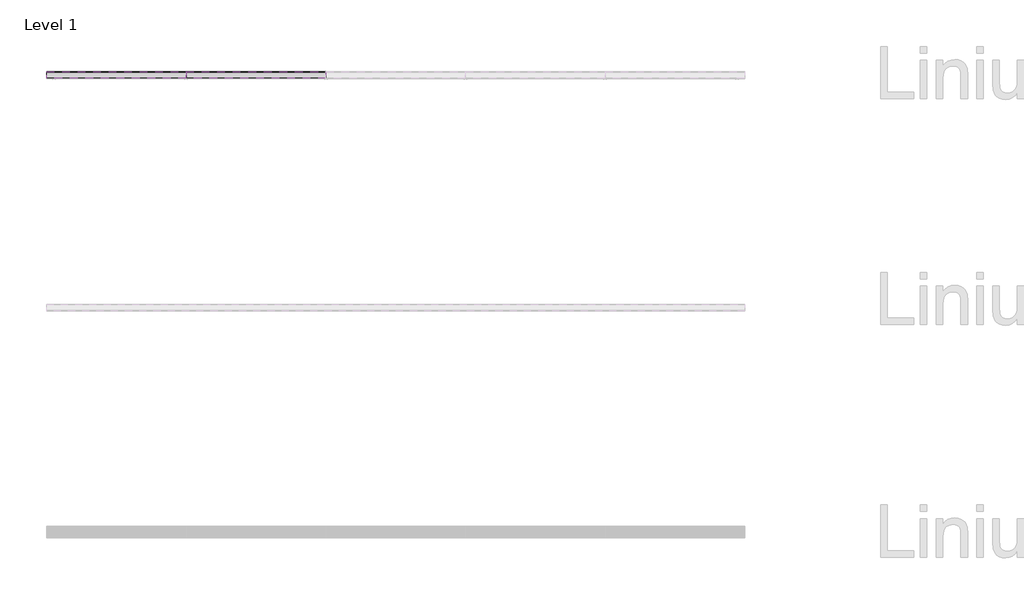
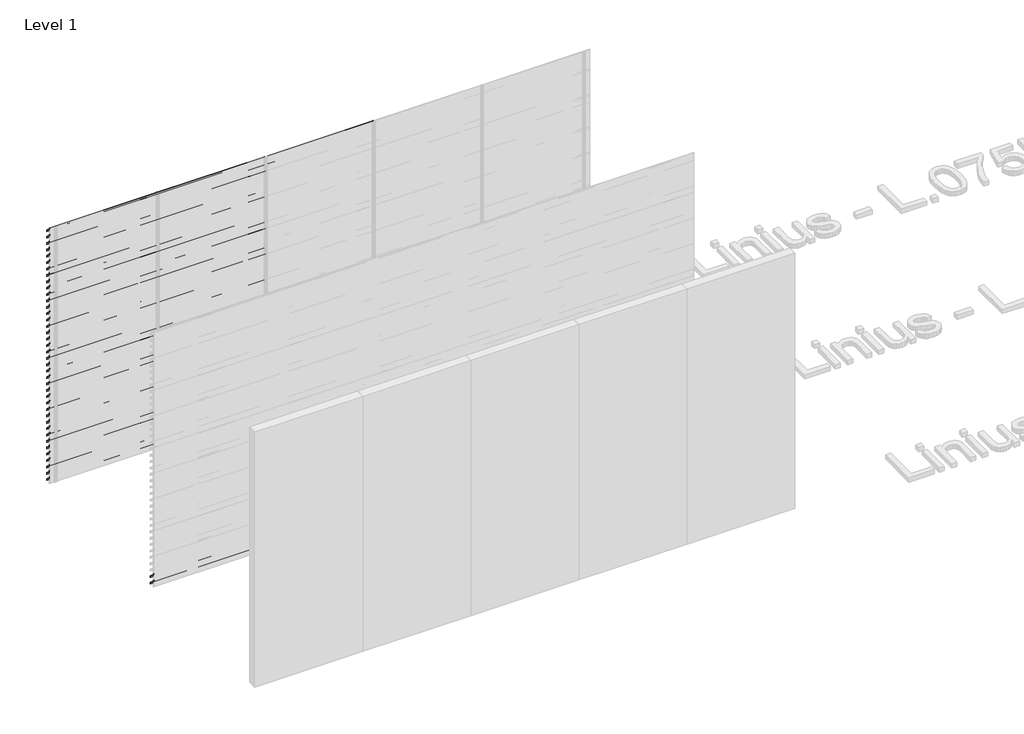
# One storey, part 52 of 55: 84 proxies.
"""IFC4 building model written with IfcOpenShell, lengths in millimetres."""

from ifc_helpers import new_model, si_unit, frame, origin, place, context, project, spatial, polyline, outline, extrude, element, save

model = new_model("IFC4")

# Units and contexts
model_context = context("Model", 3, world=origin())
ifc_project = project(units=[si_unit("LENGTHUNIT", "METRE", prefix="MILLI")], contexts=[model_context])

# Site, building, storey
site = spatial("IfcSite", under=ifc_project)
building = spatial("IfcBuilding", under=site)
storey = spatial("IfcBuildingStorey", under=building, Name="Level 1", Elevation=0.0)

# Proxies
placement = place(None, origin())
element("IfcBuildingElementProxy", 1, Name="Wall Sweeps", at=placement, inside=storey, context=model_context, shape_type="SweptSolid", body=[
    extrude(outline(polyline([(74035.8040136, 2943.5), (74035.8040136, 2923.5), (74034.5540136, 2924.2216933), (74034.5540136, 2942.7872415), (73980.8040136, 2980.3158044), (73980.8040136, 3000.0), (73982.0540136, 3000.0), (73982.0540136, 2981.0285629), (74035.8040136, 2943.5)])), frame((466.6208097, 0.0, 0.0), z_axis=(1.0, 0.0, 0.0), x_axis=(0.0, 1.0, 0.0)), (0.0, 0.0, 1.0), 1200.0000002),
])
element("IfcBuildingElementProxy", 2, Name="Wall Sweeps", at=placement, inside=storey, context=model_context, shape_type="SweptSolid", body=[
    extrude(outline(polyline([(74035.8040136, 2868.5), (74035.8040136, 2848.5), (74034.5540136, 2849.2216933), (74034.5540136, 2867.7872415), (73980.8040136, 2905.3158044), (73980.8040136, 2925.0), (73982.0540136, 2925.0), (73982.0540136, 2906.0285629), (74035.8040136, 2868.5)])), frame((466.6208097, 0.0, 0.0), z_axis=(1.0, 0.0, 0.0), x_axis=(0.0, 1.0, 0.0)), (0.0, 0.0, 1.0), 1200.0000002),
])
element("IfcBuildingElementProxy", 3, Name="Wall Sweeps", at=placement, inside=storey, context=model_context, shape_type="SweptSolid", body=[
    extrude(outline(polyline([(74035.8040136, 2793.5), (74035.8040136, 2773.5), (74034.5540136, 2774.2216933), (74034.5540136, 2792.7872415), (73980.8040136, 2830.3158044), (73980.8040136, 2850.0), (73982.0540136, 2850.0), (73982.0540136, 2831.0285629), (74035.8040136, 2793.5)])), frame((466.6208097, 0.0, 0.0), z_axis=(1.0, 0.0, 0.0), x_axis=(0.0, 1.0, 0.0)), (0.0, 0.0, 1.0), 1200.0000002),
])
element("IfcBuildingElementProxy", 4, Name="Wall Sweeps", at=placement, inside=storey, context=model_context, shape_type="SweptSolid", body=[
    extrude(outline(polyline([(74035.8040136, 2718.5), (74035.8040136, 2698.5), (74034.5540136, 2699.2216933), (74034.5540136, 2717.7872415), (73980.8040136, 2755.3158044), (73980.8040136, 2775.0), (73982.0540136, 2775.0), (73982.0540136, 2756.0285629), (74035.8040136, 2718.5)])), frame((466.6208097, 0.0, 0.0), z_axis=(1.0, 0.0, 0.0), x_axis=(0.0, 1.0, 0.0)), (0.0, 0.0, 1.0), 1200.0000002),
])
element("IfcBuildingElementProxy", 5, Name="Wall Sweeps", at=placement, inside=storey, context=model_context, shape_type="SweptSolid", body=[
    extrude(outline(polyline([(74035.8040136, 2643.5), (74035.8040136, 2623.5), (74034.5540136, 2624.2216933), (74034.5540136, 2642.7872415), (73980.8040136, 2680.3158044), (73980.8040136, 2700.0), (73982.0540136, 2700.0), (73982.0540136, 2681.0285629), (74035.8040136, 2643.5)])), frame((466.6208097, 0.0, 0.0), z_axis=(1.0, 0.0, 0.0), x_axis=(0.0, 1.0, 0.0)), (0.0, 0.0, 1.0), 1200.0000002),
])
element("IfcBuildingElementProxy", 6, Name="Wall Sweeps", at=placement, inside=storey, context=model_context, shape_type="SweptSolid", body=[
    extrude(outline(polyline([(74035.8040136, 2568.5), (74035.8040136, 2548.5), (74034.5540136, 2549.2216933), (74034.5540136, 2567.7872415), (73980.8040136, 2605.3158044), (73980.8040136, 2625.0), (73982.0540136, 2625.0), (73982.0540136, 2606.0285629), (74035.8040136, 2568.5)])), frame((466.6208097, 0.0, 0.0), z_axis=(1.0, 0.0, 0.0), x_axis=(0.0, 1.0, 0.0)), (0.0, 0.0, 1.0), 1200.0000002),
])
element("IfcBuildingElementProxy", 7, Name="Wall Sweeps", at=placement, inside=storey, context=model_context, shape_type="SweptSolid", body=[
    extrude(outline(polyline([(74035.8040136, 2493.5), (74035.8040136, 2473.5), (74034.5540136, 2474.2216933), (74034.5540136, 2492.7872415), (73980.8040136, 2530.3158044), (73980.8040136, 2550.0), (73982.0540136, 2550.0), (73982.0540136, 2531.0285629), (74035.8040136, 2493.5)])), frame((466.6208097, 0.0, 0.0), z_axis=(1.0, 0.0, 0.0), x_axis=(0.0, 1.0, 0.0)), (0.0, 0.0, 1.0), 1200.0000002),
])
element("IfcBuildingElementProxy", 8, Name="Wall Sweeps", at=placement, inside=storey, context=model_context, shape_type="SweptSolid", body=[
    extrude(outline(polyline([(74035.8040136, 2418.5), (74035.8040136, 2398.5), (74034.5540136, 2399.2216933), (74034.5540136, 2417.7872415), (73980.8040136, 2455.3158044), (73980.8040136, 2475.0), (73982.0540136, 2475.0), (73982.0540136, 2456.0285629), (74035.8040136, 2418.5)])), frame((466.6208097, 0.0, 0.0), z_axis=(1.0, 0.0, 0.0), x_axis=(0.0, 1.0, 0.0)), (0.0, 0.0, 1.0), 1200.0000002),
])
element("IfcBuildingElementProxy", 9, Name="Wall Sweeps", at=placement, inside=storey, context=model_context, shape_type="SweptSolid", body=[
    extrude(outline(polyline([(74035.8040136, 2343.5), (74035.8040136, 2323.5), (74034.5540136, 2324.2216933), (74034.5540136, 2342.7872415), (73980.8040136, 2380.3158044), (73980.8040136, 2400.0), (73982.0540136, 2400.0), (73982.0540136, 2381.0285629), (74035.8040136, 2343.5)])), frame((466.6208097, 0.0, 0.0), z_axis=(1.0, 0.0, 0.0), x_axis=(0.0, 1.0, 0.0)), (0.0, 0.0, 1.0), 1200.0000002),
])
element("IfcBuildingElementProxy", 10, Name="Wall Sweeps", at=placement, inside=storey, context=model_context, shape_type="SweptSolid", body=[
    extrude(outline(polyline([(74035.8040136, 2268.5), (74035.8040136, 2248.5), (74034.5540136, 2249.2216933), (74034.5540136, 2267.7872415), (73980.8040136, 2305.3158044), (73980.8040136, 2325.0), (73982.0540136, 2325.0), (73982.0540136, 2306.0285629), (74035.8040136, 2268.5)])), frame((466.6208097, 0.0, 0.0), z_axis=(1.0, 0.0, 0.0), x_axis=(0.0, 1.0, 0.0)), (0.0, 0.0, 1.0), 1200.0000002),
])
element("IfcBuildingElementProxy", 11, Name="Wall Sweeps", at=placement, inside=storey, context=model_context, shape_type="SweptSolid", body=[
    extrude(outline(polyline([(74035.8040136, 2193.5), (74035.8040136, 2173.5), (74034.5540136, 2174.2216933), (74034.5540136, 2192.7872415), (73980.8040136, 2230.3158044), (73980.8040136, 2250.0), (73982.0540136, 2250.0), (73982.0540136, 2231.0285629), (74035.8040136, 2193.5)])), frame((466.6208097, 0.0, 0.0), z_axis=(1.0, 0.0, 0.0), x_axis=(0.0, 1.0, 0.0)), (0.0, 0.0, 1.0), 1200.0000002),
])
element("IfcBuildingElementProxy", 12, Name="Wall Sweeps", at=placement, inside=storey, context=model_context, shape_type="SweptSolid", body=[
    extrude(outline(polyline([(74035.8040136, 2118.5), (74035.8040136, 2098.5), (74034.5540136, 2099.2216933), (74034.5540136, 2117.7872415), (73980.8040136, 2155.3158044), (73980.8040136, 2175.0), (73982.0540136, 2175.0), (73982.0540136, 2156.0285629), (74035.8040136, 2118.5)])), frame((466.6208097, 0.0, 0.0), z_axis=(1.0, 0.0, 0.0), x_axis=(0.0, 1.0, 0.0)), (0.0, 0.0, 1.0), 1200.0000002),
])
element("IfcBuildingElementProxy", 13, Name="Wall Sweeps", at=placement, inside=storey, context=model_context, shape_type="SweptSolid", body=[
    extrude(outline(polyline([(74035.8040136, 2043.5), (74035.8040136, 2023.5), (74034.5540136, 2024.2216933), (74034.5540136, 2042.7872415), (73980.8040136, 2080.3158044), (73980.8040136, 2100.0), (73982.0540136, 2100.0), (73982.0540136, 2081.0285629), (74035.8040136, 2043.5)])), frame((466.6208097, 0.0, 0.0), z_axis=(1.0, 0.0, 0.0), x_axis=(0.0, 1.0, 0.0)), (0.0, 0.0, 1.0), 1200.0000002),
])
element("IfcBuildingElementProxy", 14, Name="Wall Sweeps", at=placement, inside=storey, context=model_context, shape_type="SweptSolid", body=[
    extrude(outline(polyline([(74035.8040136, 1968.5), (74035.8040136, 1948.5), (74034.5540136, 1949.2216933), (74034.5540136, 1967.7872415), (73980.8040136, 2005.3158044), (73980.8040136, 2025.0), (73982.0540136, 2025.0), (73982.0540136, 2006.0285629), (74035.8040136, 1968.5)])), frame((466.6208097, 0.0, 0.0), z_axis=(1.0, 0.0, 0.0), x_axis=(0.0, 1.0, 0.0)), (0.0, 0.0, 1.0), 1200.0000002),
])
element("IfcBuildingElementProxy", 15, Name="Wall Sweeps", at=placement, inside=storey, context=model_context, shape_type="SweptSolid", body=[
    extrude(outline(polyline([(74035.8040136, 1893.5), (74035.8040136, 1873.5), (74034.5540136, 1874.2216933), (74034.5540136, 1892.7872415), (73980.8040136, 1930.3158044), (73980.8040136, 1950.0), (73982.0540136, 1950.0), (73982.0540136, 1931.0285629), (74035.8040136, 1893.5)])), frame((466.6208097, 0.0, 0.0), z_axis=(1.0, 0.0, 0.0), x_axis=(0.0, 1.0, 0.0)), (0.0, 0.0, 1.0), 1200.0000002),
])
element("IfcBuildingElementProxy", 16, Name="Wall Sweeps", at=placement, inside=storey, context=model_context, shape_type="SweptSolid", body=[
    extrude(outline(polyline([(74035.8040136, 1818.5), (74035.8040136, 1798.5), (74034.5540136, 1799.2216933), (74034.5540136, 1817.7872415), (73980.8040136, 1855.3158044), (73980.8040136, 1875.0), (73982.0540136, 1875.0), (73982.0540136, 1856.0285629), (74035.8040136, 1818.5)])), frame((466.6208097, 0.0, 0.0), z_axis=(1.0, 0.0, 0.0), x_axis=(0.0, 1.0, 0.0)), (0.0, 0.0, 1.0), 1200.0000002),
])
element("IfcBuildingElementProxy", 17, Name="Wall Sweeps", at=placement, inside=storey, context=model_context, shape_type="SweptSolid", body=[
    extrude(outline(polyline([(74035.8040136, 1743.5), (74035.8040136, 1723.5), (74034.5540136, 1724.2216933), (74034.5540136, 1742.7872415), (73980.8040136, 1780.3158044), (73980.8040136, 1800.0), (73982.0540136, 1800.0), (73982.0540136, 1781.0285629), (74035.8040136, 1743.5)])), frame((466.6208097, 0.0, 0.0), z_axis=(1.0, 0.0, 0.0), x_axis=(0.0, 1.0, 0.0)), (0.0, 0.0, 1.0), 1200.0000002),
])
element("IfcBuildingElementProxy", 18, Name="Wall Sweeps", at=placement, inside=storey, context=model_context, shape_type="SweptSolid", body=[
    extrude(outline(polyline([(74035.8040136, 1668.5), (74035.8040136, 1648.5), (74034.5540136, 1649.2216933), (74034.5540136, 1667.7872415), (73980.8040136, 1705.3158044), (73980.8040136, 1725.0), (73982.0540136, 1725.0), (73982.0540136, 1706.0285629), (74035.8040136, 1668.5)])), frame((466.6208097, 0.0, 0.0), z_axis=(1.0, 0.0, 0.0), x_axis=(0.0, 1.0, 0.0)), (0.0, 0.0, 1.0), 1200.0000002),
])
element("IfcBuildingElementProxy", 19, Name="Wall Sweeps", at=placement, inside=storey, context=model_context, shape_type="SweptSolid", body=[
    extrude(outline(polyline([(74035.8040136, 1593.5), (74035.8040136, 1573.5), (74034.5540136, 1574.2216933), (74034.5540136, 1592.7872415), (73980.8040136, 1630.3158044), (73980.8040136, 1650.0), (73982.0540136, 1650.0), (73982.0540136, 1631.0285629), (74035.8040136, 1593.5)])), frame((466.6208097, 0.0, 0.0), z_axis=(1.0, 0.0, 0.0), x_axis=(0.0, 1.0, 0.0)), (0.0, 0.0, 1.0), 1200.0000002),
])
element("IfcBuildingElementProxy", 20, Name="Wall Sweeps", at=placement, inside=storey, context=model_context, shape_type="SweptSolid", body=[
    extrude(outline(polyline([(74035.8040136, 1518.5), (74035.8040136, 1498.5), (74034.5540136, 1499.2216933), (74034.5540136, 1517.7872415), (73980.8040136, 1555.3158044), (73980.8040136, 1575.0), (73982.0540136, 1575.0), (73982.0540136, 1556.0285629), (74035.8040136, 1518.5)])), frame((466.6208097, 0.0, 0.0), z_axis=(1.0, 0.0, 0.0), x_axis=(0.0, 1.0, 0.0)), (0.0, 0.0, 1.0), 1200.0000002),
])
element("IfcBuildingElementProxy", 21, Name="Wall Sweeps", at=placement, inside=storey, context=model_context, shape_type="SweptSolid", body=[
    extrude(outline(polyline([(74035.8040136, 1443.5), (74035.8040136, 1423.5), (74034.5540136, 1424.2216933), (74034.5540136, 1442.7872415), (73980.8040136, 1480.3158044), (73980.8040136, 1500.0), (73982.0540136, 1500.0), (73982.0540136, 1481.0285629), (74035.8040136, 1443.5)])), frame((466.6208097, 0.0, 0.0), z_axis=(1.0, 0.0, 0.0), x_axis=(0.0, 1.0, 0.0)), (0.0, 0.0, 1.0), 1200.0000002),
])
element("IfcBuildingElementProxy", 22, Name="Wall Sweeps", at=placement, inside=storey, context=model_context, shape_type="SweptSolid", body=[
    extrude(outline(polyline([(74035.8040136, 1368.5), (74035.8040136, 1348.5), (74034.5540136, 1349.2216933), (74034.5540136, 1367.7872415), (73980.8040136, 1405.3158044), (73980.8040136, 1425.0), (73982.0540136, 1425.0), (73982.0540136, 1406.0285629), (74035.8040136, 1368.5)])), frame((466.6208097, 0.0, 0.0), z_axis=(1.0, 0.0, 0.0), x_axis=(0.0, 1.0, 0.0)), (0.0, 0.0, 1.0), 1200.0000002),
])
element("IfcBuildingElementProxy", 23, Name="Wall Sweeps", at=placement, inside=storey, context=model_context, shape_type="SweptSolid", body=[
    extrude(outline(polyline([(74035.8040136, 1293.5), (74035.8040136, 1273.5), (74034.5540136, 1274.2216933), (74034.5540136, 1292.7872415), (73980.8040136, 1330.3158044), (73980.8040136, 1350.0), (73982.0540136, 1350.0), (73982.0540136, 1331.0285629), (74035.8040136, 1293.5)])), frame((466.6208097, 0.0, 0.0), z_axis=(1.0, 0.0, 0.0), x_axis=(0.0, 1.0, 0.0)), (0.0, 0.0, 1.0), 1200.0000002),
])
element("IfcBuildingElementProxy", 24, Name="Wall Sweeps", at=placement, inside=storey, context=model_context, shape_type="SweptSolid", body=[
    extrude(outline(polyline([(74035.8040136, 1218.5), (74035.8040136, 1198.5), (74034.5540136, 1199.2216933), (74034.5540136, 1217.7872415), (73980.8040136, 1255.3158044), (73980.8040136, 1275.0), (73982.0540136, 1275.0), (73982.0540136, 1256.0285629), (74035.8040136, 1218.5)])), frame((466.6208097, 0.0, 0.0), z_axis=(1.0, 0.0, 0.0), x_axis=(0.0, 1.0, 0.0)), (0.0, 0.0, 1.0), 1200.0000002),
])
element("IfcBuildingElementProxy", 25, Name="Wall Sweeps", at=placement, inside=storey, context=model_context, shape_type="SweptSolid", body=[
    extrude(outline(polyline([(74035.8040136, 1143.5), (74035.8040136, 1123.5), (74034.5540136, 1124.2216933), (74034.5540136, 1142.7872415), (73980.8040136, 1180.3158044), (73980.8040136, 1200.0), (73982.0540136, 1200.0), (73982.0540136, 1181.0285629), (74035.8040136, 1143.5)])), frame((466.6208097, 0.0, 0.0), z_axis=(1.0, 0.0, 0.0), x_axis=(0.0, 1.0, 0.0)), (0.0, 0.0, 1.0), 1200.0000002),
])
element("IfcBuildingElementProxy", 26, Name="Wall Sweeps", at=placement, inside=storey, context=model_context, shape_type="SweptSolid", body=[
    extrude(outline(polyline([(74035.8040136, 1068.5), (74035.8040136, 1048.5), (74034.5540136, 1049.2216933), (74034.5540136, 1067.7872415), (73980.8040136, 1105.3158044), (73980.8040136, 1125.0), (73982.0540136, 1125.0), (73982.0540136, 1106.0285629), (74035.8040136, 1068.5)])), frame((466.6208097, 0.0, 0.0), z_axis=(1.0, 0.0, 0.0), x_axis=(0.0, 1.0, 0.0)), (0.0, 0.0, 1.0), 1200.0000002),
])
element("IfcBuildingElementProxy", 27, Name="Wall Sweeps", at=placement, inside=storey, context=model_context, shape_type="SweptSolid", body=[
    extrude(outline(polyline([(74035.8040136, 993.5), (74035.8040136, 973.5), (74034.5540136, 974.2216933), (74034.5540136, 992.7872415), (73980.8040136, 1030.3158044), (73980.8040136, 1050.0), (73982.0540136, 1050.0), (73982.0540136, 1031.0285629), (74035.8040136, 993.5)])), frame((466.6208097, 0.0, 0.0), z_axis=(1.0, 0.0, 0.0), x_axis=(0.0, 1.0, 0.0)), (0.0, 0.0, 1.0), 1200.0000002),
])
element("IfcBuildingElementProxy", 28, Name="Wall Sweeps", at=placement, inside=storey, context=model_context, shape_type="SweptSolid", body=[
    extrude(outline(polyline([(74035.8040136, 918.5), (74035.8040136, 898.5), (74034.5540136, 899.2216933), (74034.5540136, 917.7872415), (73980.8040136, 955.3158044), (73980.8040136, 975.0), (73982.0540136, 975.0), (73982.0540136, 956.0285629), (74035.8040136, 918.5)])), frame((466.6208097, 0.0, 0.0), z_axis=(1.0, 0.0, 0.0), x_axis=(0.0, 1.0, 0.0)), (0.0, 0.0, 1.0), 1200.0000002),
])
element("IfcBuildingElementProxy", 29, Name="Wall Sweeps", at=placement, inside=storey, context=model_context, shape_type="SweptSolid", body=[
    extrude(outline(polyline([(74035.8040136, 843.5), (74035.8040136, 823.5), (74034.5540136, 824.2216933), (74034.5540136, 842.7872415), (73980.8040136, 880.3158044), (73980.8040136, 900.0), (73982.0540136, 900.0), (73982.0540136, 881.0285629), (74035.8040136, 843.5)])), frame((466.6208097, 0.0, 0.0), z_axis=(1.0, 0.0, 0.0), x_axis=(0.0, 1.0, 0.0)), (0.0, 0.0, 1.0), 1200.0000002),
])
element("IfcBuildingElementProxy", 30, Name="Wall Sweeps", at=placement, inside=storey, context=model_context, shape_type="SweptSolid", body=[
    extrude(outline(polyline([(74035.8040136, 768.5), (74035.8040136, 748.5), (74034.5540136, 749.2216933), (74034.5540136, 767.7872415), (73980.8040136, 805.3158044), (73980.8040136, 825.0), (73982.0540136, 825.0), (73982.0540136, 806.0285629), (74035.8040136, 768.5)])), frame((466.6208097, 0.0, 0.0), z_axis=(1.0, 0.0, 0.0), x_axis=(0.0, 1.0, 0.0)), (0.0, 0.0, 1.0), 1200.0000002),
])
element("IfcBuildingElementProxy", 31, Name="Wall Sweeps", at=placement, inside=storey, context=model_context, shape_type="SweptSolid", body=[
    extrude(outline(polyline([(74035.8040136, 693.5), (74035.8040136, 673.5), (74034.5540136, 674.2216933), (74034.5540136, 692.7872415), (73980.8040136, 730.3158044), (73980.8040136, 750.0), (73982.0540136, 750.0), (73982.0540136, 731.0285629), (74035.8040136, 693.5)])), frame((466.6208097, 0.0, 0.0), z_axis=(1.0, 0.0, 0.0), x_axis=(0.0, 1.0, 0.0)), (0.0, 0.0, 1.0), 1200.0000002),
])
element("IfcBuildingElementProxy", 32, Name="Wall Sweeps", at=placement, inside=storey, context=model_context, shape_type="SweptSolid", body=[
    extrude(outline(polyline([(74035.8040136, 618.5), (74035.8040136, 598.5), (74034.5540136, 599.2216933), (74034.5540136, 617.7872415), (73980.8040136, 655.3158044), (73980.8040136, 675.0), (73982.0540136, 675.0), (73982.0540136, 656.0285629), (74035.8040136, 618.5)])), frame((466.6208097, 0.0, 0.0), z_axis=(1.0, 0.0, 0.0), x_axis=(0.0, 1.0, 0.0)), (0.0, 0.0, 1.0), 1200.0000002),
])
element("IfcBuildingElementProxy", 33, Name="Wall Sweeps", at=placement, inside=storey, context=model_context, shape_type="SweptSolid", body=[
    extrude(outline(polyline([(74035.8040136, 543.5), (74035.8040136, 523.5), (74034.5540136, 524.2216933), (74034.5540136, 542.7872415), (73980.8040136, 580.3158044), (73980.8040136, 600.0), (73982.0540136, 600.0), (73982.0540136, 581.0285629), (74035.8040136, 543.5)])), frame((466.6208097, 0.0, 0.0), z_axis=(1.0, 0.0, 0.0), x_axis=(0.0, 1.0, 0.0)), (0.0, 0.0, 1.0), 1200.0000002),
])
element("IfcBuildingElementProxy", 34, Name="Wall Sweeps", at=placement, inside=storey, context=model_context, shape_type="SweptSolid", body=[
    extrude(outline(polyline([(74035.8040136, 468.5), (74035.8040136, 448.5), (74034.5540136, 449.2216933), (74034.5540136, 467.7872415), (73980.8040136, 505.3158044), (73980.8040136, 525.0), (73982.0540136, 525.0), (73982.0540136, 506.0285629), (74035.8040136, 468.5)])), frame((466.6208097, 0.0, 0.0), z_axis=(1.0, 0.0, 0.0), x_axis=(0.0, 1.0, 0.0)), (0.0, 0.0, 1.0), 1200.0000002),
])
element("IfcBuildingElementProxy", 35, Name="Wall Sweeps", at=placement, inside=storey, context=model_context, shape_type="SweptSolid", body=[
    extrude(outline(polyline([(74035.8040136, 393.5), (74035.8040136, 373.5), (74034.5540136, 374.2216933), (74034.5540136, 392.7872415), (73980.8040136, 430.3158044), (73980.8040136, 450.0), (73982.0540136, 450.0), (73982.0540136, 431.0285629), (74035.8040136, 393.5)])), frame((466.6208097, 0.0, 0.0), z_axis=(1.0, 0.0, 0.0), x_axis=(0.0, 1.0, 0.0)), (0.0, 0.0, 1.0), 1200.0000002),
])
element("IfcBuildingElementProxy", 36, Name="Wall Sweeps", at=placement, inside=storey, context=model_context, shape_type="SweptSolid", body=[
    extrude(outline(polyline([(74035.8040136, 318.5), (74035.8040136, 298.5), (74034.5540136, 299.2216933), (74034.5540136, 317.7872415), (73980.8040136, 355.3158044), (73980.8040136, 375.0), (73982.0540136, 375.0), (73982.0540136, 356.0285629), (74035.8040136, 318.5)])), frame((466.6208097, 0.0, 0.0), z_axis=(1.0, 0.0, 0.0), x_axis=(0.0, 1.0, 0.0)), (0.0, 0.0, 1.0), 1200.0000002),
])
element("IfcBuildingElementProxy", 37, Name="Wall Sweeps", at=placement, inside=storey, context=model_context, shape_type="SweptSolid", body=[
    extrude(outline(polyline([(74035.8040136, 243.5), (74035.8040136, 223.5), (74034.5540136, 224.2216933), (74034.5540136, 242.7872415), (73980.8040136, 280.3158044), (73980.8040136, 300.0), (73982.0540136, 300.0), (73982.0540136, 281.0285629), (74035.8040136, 243.5)])), frame((466.6208097, 0.0, 0.0), z_axis=(1.0, 0.0, 0.0), x_axis=(0.0, 1.0, 0.0)), (0.0, 0.0, 1.0), 1200.0000002),
])
element("IfcBuildingElementProxy", 38, Name="Wall Sweeps", at=placement, inside=storey, context=model_context, shape_type="SweptSolid", body=[
    extrude(outline(polyline([(74035.8040136, 168.5), (74035.8040136, 148.5), (74034.5540136, 149.2216933), (74034.5540136, 167.7872415), (73980.8040136, 205.3158044), (73980.8040136, 225.0), (73982.0540136, 225.0), (73982.0540136, 206.0285629), (74035.8040136, 168.5)])), frame((466.6208097, 0.0, 0.0), z_axis=(1.0, 0.0, 0.0), x_axis=(0.0, 1.0, 0.0)), (0.0, 0.0, 1.0), 1200.0000002),
])
element("IfcBuildingElementProxy", 39, Name="Wall Sweeps", at=placement, inside=storey, context=model_context, shape_type="SweptSolid", body=[
    extrude(outline(polyline([(74035.8040136, 93.5), (74035.8040136, 73.5), (74034.5540136, 74.2216933), (74034.5540136, 92.7872415), (73980.8040136, 130.3158044), (73980.8040136, 150.0), (73982.0540136, 150.0), (73982.0540136, 131.0285629), (74035.8040136, 93.5)])), frame((466.6208097, 0.0, 0.0), z_axis=(1.0, 0.0, 0.0), x_axis=(0.0, 1.0, 0.0)), (0.0, 0.0, 1.0), 1200.0000002),
])
element("IfcBuildingElementProxy", 40, Name="Wall Sweeps", at=placement, inside=storey, context=model_context, shape_type="SweptSolid", body=[
    extrude(outline(polyline([(74035.8040136, 18.5), (74035.8040136, -1.5), (74034.5540136, -0.7783067), (74034.5540136, 17.7872415), (73980.8040136, 55.3158044), (73980.8040136, 75.0), (73982.0540136, 75.0), (73982.0540136, 56.0285629), (74035.8040136, 18.5)])), frame((466.6208097, 0.0, 0.0), z_axis=(1.0, 0.0, 0.0), x_axis=(0.0, 1.0, 0.0)), (0.0, 0.0, 1.0), 1200.0000002),
])
element("IfcBuildingElementProxy", 41, Name="Wall Sweeps", at=placement, inside=storey, context=model_context, shape_type="SweptSolid", body=[
    extrude(outline(polyline([(74035.8040136, 2943.5), (74035.8040136, 2923.5), (74034.5540136, 2924.2216933), (74034.5540136, 2942.7872415), (73980.8040136, 2980.3158044), (73980.8040136, 3000.0), (73982.0540136, 3000.0), (73982.0540136, 2981.0285629), (74035.8040136, 2943.5)])), frame((1666.6208099, 0.0, 0.0), z_axis=(1.0, 0.0, 0.0), x_axis=(0.0, 1.0, 0.0)), (0.0, 0.0, 1.0), 1199.9999999),
])
element("IfcBuildingElementProxy", 42, Name="Wall Sweeps", at=placement, inside=storey, context=model_context, shape_type="SweptSolid", body=[
    extrude(outline(polyline([(74035.8040136, 2868.5), (74035.8040136, 2848.5), (74034.5540136, 2849.2216933), (74034.5540136, 2867.7872415), (73980.8040136, 2905.3158044), (73980.8040136, 2925.0), (73982.0540136, 2925.0), (73982.0540136, 2906.0285629), (74035.8040136, 2868.5)])), frame((1666.6208099, 0.0, 0.0), z_axis=(1.0, 0.0, 0.0), x_axis=(0.0, 1.0, 0.0)), (0.0, 0.0, 1.0), 1199.9999999),
])
element("IfcBuildingElementProxy", 43, Name="Wall Sweeps", at=placement, inside=storey, context=model_context, shape_type="SweptSolid", body=[
    extrude(outline(polyline([(74035.8040136, 2793.5), (74035.8040136, 2773.5), (74034.5540136, 2774.2216933), (74034.5540136, 2792.7872415), (73980.8040136, 2830.3158044), (73980.8040136, 2850.0), (73982.0540136, 2850.0), (73982.0540136, 2831.0285629), (74035.8040136, 2793.5)])), frame((1666.6208099, 0.0, 0.0), z_axis=(1.0, 0.0, 0.0), x_axis=(0.0, 1.0, 0.0)), (0.0, 0.0, 1.0), 1199.9999999),
])
element("IfcBuildingElementProxy", 44, Name="Wall Sweeps", at=placement, inside=storey, context=model_context, shape_type="SweptSolid", body=[
    extrude(outline(polyline([(74035.8040136, 2718.5), (74035.8040136, 2698.5), (74034.5540136, 2699.2216933), (74034.5540136, 2717.7872415), (73980.8040136, 2755.3158044), (73980.8040136, 2775.0), (73982.0540136, 2775.0), (73982.0540136, 2756.0285629), (74035.8040136, 2718.5)])), frame((1666.6208099, 0.0, 0.0), z_axis=(1.0, 0.0, 0.0), x_axis=(0.0, 1.0, 0.0)), (0.0, 0.0, 1.0), 1199.9999999),
])
element("IfcBuildingElementProxy", 45, Name="Wall Sweeps", at=placement, inside=storey, context=model_context, shape_type="SweptSolid", body=[
    extrude(outline(polyline([(74035.8040136, 2643.5), (74035.8040136, 2623.5), (74034.5540136, 2624.2216933), (74034.5540136, 2642.7872415), (73980.8040136, 2680.3158044), (73980.8040136, 2700.0), (73982.0540136, 2700.0), (73982.0540136, 2681.0285629), (74035.8040136, 2643.5)])), frame((1666.6208099, 0.0, 0.0), z_axis=(1.0, 0.0, 0.0), x_axis=(0.0, 1.0, 0.0)), (0.0, 0.0, 1.0), 1199.9999999),
])
element("IfcBuildingElementProxy", 46, Name="Wall Sweeps", at=placement, inside=storey, context=model_context, shape_type="SweptSolid", body=[
    extrude(outline(polyline([(74035.8040136, 2568.5), (74035.8040136, 2548.5), (74034.5540136, 2549.2216933), (74034.5540136, 2567.7872415), (73980.8040136, 2605.3158044), (73980.8040136, 2625.0), (73982.0540136, 2625.0), (73982.0540136, 2606.0285629), (74035.8040136, 2568.5)])), frame((1666.6208099, 0.0, 0.0), z_axis=(1.0, 0.0, 0.0), x_axis=(0.0, 1.0, 0.0)), (0.0, 0.0, 1.0), 1199.9999999),
])
element("IfcBuildingElementProxy", 47, Name="Wall Sweeps", at=placement, inside=storey, context=model_context, shape_type="SweptSolid", body=[
    extrude(outline(polyline([(74035.8040136, 2493.5), (74035.8040136, 2473.5), (74034.5540136, 2474.2216933), (74034.5540136, 2492.7872415), (73980.8040136, 2530.3158044), (73980.8040136, 2550.0), (73982.0540136, 2550.0), (73982.0540136, 2531.0285629), (74035.8040136, 2493.5)])), frame((1666.6208099, 0.0, 0.0), z_axis=(1.0, 0.0, 0.0), x_axis=(0.0, 1.0, 0.0)), (0.0, 0.0, 1.0), 1199.9999999),
])
element("IfcBuildingElementProxy", 48, Name="Wall Sweeps", at=placement, inside=storey, context=model_context, shape_type="SweptSolid", body=[
    extrude(outline(polyline([(74035.8040136, 2418.5), (74035.8040136, 2398.5), (74034.5540136, 2399.2216933), (74034.5540136, 2417.7872415), (73980.8040136, 2455.3158044), (73980.8040136, 2475.0), (73982.0540136, 2475.0), (73982.0540136, 2456.0285629), (74035.8040136, 2418.5)])), frame((1666.6208099, 0.0, 0.0), z_axis=(1.0, 0.0, 0.0), x_axis=(0.0, 1.0, 0.0)), (0.0, 0.0, 1.0), 1199.9999999),
])
element("IfcBuildingElementProxy", 49, Name="Wall Sweeps", at=placement, inside=storey, context=model_context, shape_type="SweptSolid", body=[
    extrude(outline(polyline([(74035.8040136, 2343.5), (74035.8040136, 2323.5), (74034.5540136, 2324.2216933), (74034.5540136, 2342.7872415), (73980.8040136, 2380.3158044), (73980.8040136, 2400.0), (73982.0540136, 2400.0), (73982.0540136, 2381.0285629), (74035.8040136, 2343.5)])), frame((1666.6208099, 0.0, 0.0), z_axis=(1.0, 0.0, 0.0), x_axis=(0.0, 1.0, 0.0)), (0.0, 0.0, 1.0), 1199.9999999),
])
element("IfcBuildingElementProxy", 50, Name="Wall Sweeps", at=placement, inside=storey, context=model_context, shape_type="SweptSolid", body=[
    extrude(outline(polyline([(74035.8040136, 2268.5), (74035.8040136, 2248.5), (74034.5540136, 2249.2216933), (74034.5540136, 2267.7872415), (73980.8040136, 2305.3158044), (73980.8040136, 2325.0), (73982.0540136, 2325.0), (73982.0540136, 2306.0285629), (74035.8040136, 2268.5)])), frame((1666.6208099, 0.0, 0.0), z_axis=(1.0, 0.0, 0.0), x_axis=(0.0, 1.0, 0.0)), (0.0, 0.0, 1.0), 1199.9999999),
])
element("IfcBuildingElementProxy", 51, Name="Wall Sweeps", at=placement, inside=storey, context=model_context, shape_type="SweptSolid", body=[
    extrude(outline(polyline([(74035.8040136, 2193.5), (74035.8040136, 2173.5), (74034.5540136, 2174.2216933), (74034.5540136, 2192.7872415), (73980.8040136, 2230.3158044), (73980.8040136, 2250.0), (73982.0540136, 2250.0), (73982.0540136, 2231.0285629), (74035.8040136, 2193.5)])), frame((1666.6208099, 0.0, 0.0), z_axis=(1.0, 0.0, 0.0), x_axis=(0.0, 1.0, 0.0)), (0.0, 0.0, 1.0), 1199.9999999),
])
element("IfcBuildingElementProxy", 52, Name="Wall Sweeps", at=placement, inside=storey, context=model_context, shape_type="SweptSolid", body=[
    extrude(outline(polyline([(74035.8040136, 2118.5), (74035.8040136, 2098.5), (74034.5540136, 2099.2216933), (74034.5540136, 2117.7872415), (73980.8040136, 2155.3158044), (73980.8040136, 2175.0), (73982.0540136, 2175.0), (73982.0540136, 2156.0285629), (74035.8040136, 2118.5)])), frame((1666.6208099, 0.0, 0.0), z_axis=(1.0, 0.0, 0.0), x_axis=(0.0, 1.0, 0.0)), (0.0, 0.0, 1.0), 1199.9999999),
])
element("IfcBuildingElementProxy", 53, Name="Wall Sweeps", at=placement, inside=storey, context=model_context, shape_type="SweptSolid", body=[
    extrude(outline(polyline([(74035.8040136, 2043.5), (74035.8040136, 2023.5), (74034.5540136, 2024.2216933), (74034.5540136, 2042.7872415), (73980.8040136, 2080.3158044), (73980.8040136, 2100.0), (73982.0540136, 2100.0), (73982.0540136, 2081.0285629), (74035.8040136, 2043.5)])), frame((1666.6208099, 0.0, 0.0), z_axis=(1.0, 0.0, 0.0), x_axis=(0.0, 1.0, 0.0)), (0.0, 0.0, 1.0), 1199.9999999),
])
element("IfcBuildingElementProxy", 54, Name="Wall Sweeps", at=placement, inside=storey, context=model_context, shape_type="SweptSolid", body=[
    extrude(outline(polyline([(74035.8040136, 1968.5), (74035.8040136, 1948.5), (74034.5540136, 1949.2216933), (74034.5540136, 1967.7872415), (73980.8040136, 2005.3158044), (73980.8040136, 2025.0), (73982.0540136, 2025.0), (73982.0540136, 2006.0285629), (74035.8040136, 1968.5)])), frame((1666.6208099, 0.0, 0.0), z_axis=(1.0, 0.0, 0.0), x_axis=(0.0, 1.0, 0.0)), (0.0, 0.0, 1.0), 1199.9999999),
])
element("IfcBuildingElementProxy", 55, Name="Wall Sweeps", at=placement, inside=storey, context=model_context, shape_type="SweptSolid", body=[
    extrude(outline(polyline([(74035.8040136, 1893.5), (74035.8040136, 1873.5), (74034.5540136, 1874.2216933), (74034.5540136, 1892.7872415), (73980.8040136, 1930.3158044), (73980.8040136, 1950.0), (73982.0540136, 1950.0), (73982.0540136, 1931.0285629), (74035.8040136, 1893.5)])), frame((1666.6208099, 0.0, 0.0), z_axis=(1.0, 0.0, 0.0), x_axis=(0.0, 1.0, 0.0)), (0.0, 0.0, 1.0), 1199.9999999),
])
element("IfcBuildingElementProxy", 56, Name="Wall Sweeps", at=placement, inside=storey, context=model_context, shape_type="SweptSolid", body=[
    extrude(outline(polyline([(74035.8040136, 1818.5), (74035.8040136, 1798.5), (74034.5540136, 1799.2216933), (74034.5540136, 1817.7872415), (73980.8040136, 1855.3158044), (73980.8040136, 1875.0), (73982.0540136, 1875.0), (73982.0540136, 1856.0285629), (74035.8040136, 1818.5)])), frame((1666.6208099, 0.0, 0.0), z_axis=(1.0, 0.0, 0.0), x_axis=(0.0, 1.0, 0.0)), (0.0, 0.0, 1.0), 1199.9999999),
])
element("IfcBuildingElementProxy", 57, Name="Wall Sweeps", at=placement, inside=storey, context=model_context, shape_type="SweptSolid", body=[
    extrude(outline(polyline([(74035.8040136, 1743.5), (74035.8040136, 1723.5), (74034.5540136, 1724.2216933), (74034.5540136, 1742.7872415), (73980.8040136, 1780.3158044), (73980.8040136, 1800.0), (73982.0540136, 1800.0), (73982.0540136, 1781.0285629), (74035.8040136, 1743.5)])), frame((1666.6208099, 0.0, 0.0), z_axis=(1.0, 0.0, 0.0), x_axis=(0.0, 1.0, 0.0)), (0.0, 0.0, 1.0), 1199.9999999),
])
element("IfcBuildingElementProxy", 58, Name="Wall Sweeps", at=placement, inside=storey, context=model_context, shape_type="SweptSolid", body=[
    extrude(outline(polyline([(74035.8040136, 1668.5), (74035.8040136, 1648.5), (74034.5540136, 1649.2216933), (74034.5540136, 1667.7872415), (73980.8040136, 1705.3158044), (73980.8040136, 1725.0), (73982.0540136, 1725.0), (73982.0540136, 1706.0285629), (74035.8040136, 1668.5)])), frame((1666.6208099, 0.0, 0.0), z_axis=(1.0, 0.0, 0.0), x_axis=(0.0, 1.0, 0.0)), (0.0, 0.0, 1.0), 1199.9999999),
])
element("IfcBuildingElementProxy", 59, Name="Wall Sweeps", at=placement, inside=storey, context=model_context, shape_type="SweptSolid", body=[
    extrude(outline(polyline([(74035.8040136, 1593.5), (74035.8040136, 1573.5), (74034.5540136, 1574.2216933), (74034.5540136, 1592.7872415), (73980.8040136, 1630.3158044), (73980.8040136, 1650.0), (73982.0540136, 1650.0), (73982.0540136, 1631.0285629), (74035.8040136, 1593.5)])), frame((1666.6208099, 0.0, 0.0), z_axis=(1.0, 0.0, 0.0), x_axis=(0.0, 1.0, 0.0)), (0.0, 0.0, 1.0), 1199.9999999),
])
element("IfcBuildingElementProxy", 60, Name="Wall Sweeps", at=placement, inside=storey, context=model_context, shape_type="SweptSolid", body=[
    extrude(outline(polyline([(74035.8040136, 1518.5), (74035.8040136, 1498.5), (74034.5540136, 1499.2216933), (74034.5540136, 1517.7872415), (73980.8040136, 1555.3158044), (73980.8040136, 1575.0), (73982.0540136, 1575.0), (73982.0540136, 1556.0285629), (74035.8040136, 1518.5)])), frame((1666.6208099, 0.0, 0.0), z_axis=(1.0, 0.0, 0.0), x_axis=(0.0, 1.0, 0.0)), (0.0, 0.0, 1.0), 1199.9999999),
])
element("IfcBuildingElementProxy", 61, Name="Wall Sweeps", at=placement, inside=storey, context=model_context, shape_type="SweptSolid", body=[
    extrude(outline(polyline([(74035.8040136, 1443.5), (74035.8040136, 1423.5), (74034.5540136, 1424.2216933), (74034.5540136, 1442.7872415), (73980.8040136, 1480.3158044), (73980.8040136, 1500.0), (73982.0540136, 1500.0), (73982.0540136, 1481.0285629), (74035.8040136, 1443.5)])), frame((1666.6208099, 0.0, 0.0), z_axis=(1.0, 0.0, 0.0), x_axis=(0.0, 1.0, 0.0)), (0.0, 0.0, 1.0), 1199.9999999),
])
element("IfcBuildingElementProxy", 62, Name="Wall Sweeps", at=placement, inside=storey, context=model_context, shape_type="SweptSolid", body=[
    extrude(outline(polyline([(74035.8040136, 1368.5), (74035.8040136, 1348.5), (74034.5540136, 1349.2216933), (74034.5540136, 1367.7872415), (73980.8040136, 1405.3158044), (73980.8040136, 1425.0), (73982.0540136, 1425.0), (73982.0540136, 1406.0285629), (74035.8040136, 1368.5)])), frame((1666.6208099, 0.0, 0.0), z_axis=(1.0, 0.0, 0.0), x_axis=(0.0, 1.0, 0.0)), (0.0, 0.0, 1.0), 1199.9999999),
])
element("IfcBuildingElementProxy", 63, Name="Wall Sweeps", at=placement, inside=storey, context=model_context, shape_type="SweptSolid", body=[
    extrude(outline(polyline([(74035.8040136, 1293.5), (74035.8040136, 1273.5), (74034.5540136, 1274.2216933), (74034.5540136, 1292.7872415), (73980.8040136, 1330.3158044), (73980.8040136, 1350.0), (73982.0540136, 1350.0), (73982.0540136, 1331.0285629), (74035.8040136, 1293.5)])), frame((1666.6208099, 0.0, 0.0), z_axis=(1.0, 0.0, 0.0), x_axis=(0.0, 1.0, 0.0)), (0.0, 0.0, 1.0), 1199.9999999),
])
element("IfcBuildingElementProxy", 64, Name="Wall Sweeps", at=placement, inside=storey, context=model_context, shape_type="SweptSolid", body=[
    extrude(outline(polyline([(74035.8040136, 1218.5), (74035.8040136, 1198.5), (74034.5540136, 1199.2216933), (74034.5540136, 1217.7872415), (73980.8040136, 1255.3158044), (73980.8040136, 1275.0), (73982.0540136, 1275.0), (73982.0540136, 1256.0285629), (74035.8040136, 1218.5)])), frame((1666.6208099, 0.0, 0.0), z_axis=(1.0, 0.0, 0.0), x_axis=(0.0, 1.0, 0.0)), (0.0, 0.0, 1.0), 1199.9999999),
])
element("IfcBuildingElementProxy", 65, Name="Wall Sweeps", at=placement, inside=storey, context=model_context, shape_type="SweptSolid", body=[
    extrude(outline(polyline([(74035.8040136, 1143.5), (74035.8040136, 1123.5), (74034.5540136, 1124.2216933), (74034.5540136, 1142.7872415), (73980.8040136, 1180.3158044), (73980.8040136, 1200.0), (73982.0540136, 1200.0), (73982.0540136, 1181.0285629), (74035.8040136, 1143.5)])), frame((1666.6208099, 0.0, 0.0), z_axis=(1.0, 0.0, 0.0), x_axis=(0.0, 1.0, 0.0)), (0.0, 0.0, 1.0), 1199.9999999),
])
element("IfcBuildingElementProxy", 66, Name="Wall Sweeps", at=placement, inside=storey, context=model_context, shape_type="SweptSolid", body=[
    extrude(outline(polyline([(74035.8040136, 1068.5), (74035.8040136, 1048.5), (74034.5540136, 1049.2216933), (74034.5540136, 1067.7872415), (73980.8040136, 1105.3158044), (73980.8040136, 1125.0), (73982.0540136, 1125.0), (73982.0540136, 1106.0285629), (74035.8040136, 1068.5)])), frame((1666.6208099, 0.0, 0.0), z_axis=(1.0, 0.0, 0.0), x_axis=(0.0, 1.0, 0.0)), (0.0, 0.0, 1.0), 1199.9999999),
])
element("IfcBuildingElementProxy", 67, Name="Wall Sweeps", at=placement, inside=storey, context=model_context, shape_type="SweptSolid", body=[
    extrude(outline(polyline([(74035.8040136, 993.5), (74035.8040136, 973.5), (74034.5540136, 974.2216933), (74034.5540136, 992.7872415), (73980.8040136, 1030.3158044), (73980.8040136, 1050.0), (73982.0540136, 1050.0), (73982.0540136, 1031.0285629), (74035.8040136, 993.5)])), frame((1666.6208099, 0.0, 0.0), z_axis=(1.0, 0.0, 0.0), x_axis=(0.0, 1.0, 0.0)), (0.0, 0.0, 1.0), 1199.9999999),
])
element("IfcBuildingElementProxy", 68, Name="Wall Sweeps", at=placement, inside=storey, context=model_context, shape_type="SweptSolid", body=[
    extrude(outline(polyline([(74035.8040136, 918.5), (74035.8040136, 898.5), (74034.5540136, 899.2216933), (74034.5540136, 917.7872415), (73980.8040136, 955.3158044), (73980.8040136, 975.0), (73982.0540136, 975.0), (73982.0540136, 956.0285629), (74035.8040136, 918.5)])), frame((1666.6208099, 0.0, 0.0), z_axis=(1.0, 0.0, 0.0), x_axis=(0.0, 1.0, 0.0)), (0.0, 0.0, 1.0), 1199.9999999),
])
element("IfcBuildingElementProxy", 69, Name="Wall Sweeps", at=placement, inside=storey, context=model_context, shape_type="SweptSolid", body=[
    extrude(outline(polyline([(74035.8040136, 843.5), (74035.8040136, 823.5), (74034.5540136, 824.2216933), (74034.5540136, 842.7872415), (73980.8040136, 880.3158044), (73980.8040136, 900.0), (73982.0540136, 900.0), (73982.0540136, 881.0285629), (74035.8040136, 843.5)])), frame((1666.6208099, 0.0, 0.0), z_axis=(1.0, 0.0, 0.0), x_axis=(0.0, 1.0, 0.0)), (0.0, 0.0, 1.0), 1199.9999999),
])
element("IfcBuildingElementProxy", 70, Name="Wall Sweeps", at=placement, inside=storey, context=model_context, shape_type="SweptSolid", body=[
    extrude(outline(polyline([(74035.8040136, 768.5), (74035.8040136, 748.5), (74034.5540136, 749.2216933), (74034.5540136, 767.7872415), (73980.8040136, 805.3158044), (73980.8040136, 825.0), (73982.0540136, 825.0), (73982.0540136, 806.0285629), (74035.8040136, 768.5)])), frame((1666.6208099, 0.0, 0.0), z_axis=(1.0, 0.0, 0.0), x_axis=(0.0, 1.0, 0.0)), (0.0, 0.0, 1.0), 1199.9999999),
])
element("IfcBuildingElementProxy", 71, Name="Wall Sweeps", at=placement, inside=storey, context=model_context, shape_type="SweptSolid", body=[
    extrude(outline(polyline([(74035.8040136, 693.5), (74035.8040136, 673.5), (74034.5540136, 674.2216933), (74034.5540136, 692.7872415), (73980.8040136, 730.3158044), (73980.8040136, 750.0), (73982.0540136, 750.0), (73982.0540136, 731.0285629), (74035.8040136, 693.5)])), frame((1666.6208099, 0.0, 0.0), z_axis=(1.0, 0.0, 0.0), x_axis=(0.0, 1.0, 0.0)), (0.0, 0.0, 1.0), 1199.9999999),
])
element("IfcBuildingElementProxy", 72, Name="Wall Sweeps", at=placement, inside=storey, context=model_context, shape_type="SweptSolid", body=[
    extrude(outline(polyline([(74035.8040136, 618.5), (74035.8040136, 598.5), (74034.5540136, 599.2216933), (74034.5540136, 617.7872415), (73980.8040136, 655.3158044), (73980.8040136, 675.0), (73982.0540136, 675.0), (73982.0540136, 656.0285629), (74035.8040136, 618.5)])), frame((1666.6208099, 0.0, 0.0), z_axis=(1.0, 0.0, 0.0), x_axis=(0.0, 1.0, 0.0)), (0.0, 0.0, 1.0), 1199.9999999),
])
element("IfcBuildingElementProxy", 73, Name="Wall Sweeps", at=placement, inside=storey, context=model_context, shape_type="SweptSolid", body=[
    extrude(outline(polyline([(74035.8040136, 543.5), (74035.8040136, 523.5), (74034.5540136, 524.2216933), (74034.5540136, 542.7872415), (73980.8040136, 580.3158044), (73980.8040136, 600.0), (73982.0540136, 600.0), (73982.0540136, 581.0285629), (74035.8040136, 543.5)])), frame((1666.6208099, 0.0, 0.0), z_axis=(1.0, 0.0, 0.0), x_axis=(0.0, 1.0, 0.0)), (0.0, 0.0, 1.0), 1199.9999999),
])
element("IfcBuildingElementProxy", 74, Name="Wall Sweeps", at=placement, inside=storey, context=model_context, shape_type="SweptSolid", body=[
    extrude(outline(polyline([(74035.8040136, 468.5), (74035.8040136, 448.5), (74034.5540136, 449.2216933), (74034.5540136, 467.7872415), (73980.8040136, 505.3158044), (73980.8040136, 525.0), (73982.0540136, 525.0), (73982.0540136, 506.0285629), (74035.8040136, 468.5)])), frame((1666.6208099, 0.0, 0.0), z_axis=(1.0, 0.0, 0.0), x_axis=(0.0, 1.0, 0.0)), (0.0, 0.0, 1.0), 1199.9999999),
])
element("IfcBuildingElementProxy", 75, Name="Wall Sweeps", at=placement, inside=storey, context=model_context, shape_type="SweptSolid", body=[
    extrude(outline(polyline([(74035.8040136, 393.5), (74035.8040136, 373.5), (74034.5540136, 374.2216933), (74034.5540136, 392.7872415), (73980.8040136, 430.3158044), (73980.8040136, 450.0), (73982.0540136, 450.0), (73982.0540136, 431.0285629), (74035.8040136, 393.5)])), frame((1666.6208099, 0.0, 0.0), z_axis=(1.0, 0.0, 0.0), x_axis=(0.0, 1.0, 0.0)), (0.0, 0.0, 1.0), 1199.9999999),
])
element("IfcBuildingElementProxy", 76, Name="Wall Sweeps", at=placement, inside=storey, context=model_context, shape_type="SweptSolid", body=[
    extrude(outline(polyline([(74035.8040136, 318.5), (74035.8040136, 298.5), (74034.5540136, 299.2216933), (74034.5540136, 317.7872415), (73980.8040136, 355.3158044), (73980.8040136, 375.0), (73982.0540136, 375.0), (73982.0540136, 356.0285629), (74035.8040136, 318.5)])), frame((1666.6208099, 0.0, 0.0), z_axis=(1.0, 0.0, 0.0), x_axis=(0.0, 1.0, 0.0)), (0.0, 0.0, 1.0), 1199.9999999),
])
element("IfcBuildingElementProxy", 77, Name="Wall Sweeps", at=placement, inside=storey, context=model_context, shape_type="SweptSolid", body=[
    extrude(outline(polyline([(74035.8040136, 243.5), (74035.8040136, 223.5), (74034.5540136, 224.2216933), (74034.5540136, 242.7872415), (73980.8040136, 280.3158044), (73980.8040136, 300.0), (73982.0540136, 300.0), (73982.0540136, 281.0285629), (74035.8040136, 243.5)])), frame((1666.6208099, 0.0, 0.0), z_axis=(1.0, 0.0, 0.0), x_axis=(0.0, 1.0, 0.0)), (0.0, 0.0, 1.0), 1199.9999999),
])
element("IfcBuildingElementProxy", 78, Name="Wall Sweeps", at=placement, inside=storey, context=model_context, shape_type="SweptSolid", body=[
    extrude(outline(polyline([(74035.8040136, 168.5), (74035.8040136, 148.5), (74034.5540136, 149.2216933), (74034.5540136, 167.7872415), (73980.8040136, 205.3158044), (73980.8040136, 225.0), (73982.0540136, 225.0), (73982.0540136, 206.0285629), (74035.8040136, 168.5)])), frame((1666.6208099, 0.0, 0.0), z_axis=(1.0, 0.0, 0.0), x_axis=(0.0, 1.0, 0.0)), (0.0, 0.0, 1.0), 1199.9999999),
])
element("IfcBuildingElementProxy", 79, Name="Wall Sweeps", at=placement, inside=storey, context=model_context, shape_type="SweptSolid", body=[
    extrude(outline(polyline([(74035.8040136, 93.5), (74035.8040136, 73.5), (74034.5540136, 74.2216933), (74034.5540136, 92.7872415), (73980.8040136, 130.3158044), (73980.8040136, 150.0), (73982.0540136, 150.0), (73982.0540136, 131.0285629), (74035.8040136, 93.5)])), frame((1666.6208099, 0.0, 0.0), z_axis=(1.0, 0.0, 0.0), x_axis=(0.0, 1.0, 0.0)), (0.0, 0.0, 1.0), 1199.9999999),
])
element("IfcBuildingElementProxy", 80, Name="Wall Sweeps", at=placement, inside=storey, context=model_context, shape_type="SweptSolid", body=[
    extrude(outline(polyline([(74035.8040136, 18.5), (74035.8040136, -1.5), (74034.5540136, -0.7783067), (74034.5540136, 17.7872415), (73980.8040136, 55.3158044), (73980.8040136, 75.0), (73982.0540136, 75.0), (73982.0540136, 56.0285629), (74035.8040136, 18.5)])), frame((1666.6208099, 0.0, 0.0), z_axis=(1.0, 0.0, 0.0), x_axis=(0.0, 1.0, 0.0)), (0.0, 0.0, 1.0), 1199.9999999),
])
element("IfcBuildingElementProxy", 81, Name="Wall Sweeps", at=placement, inside=storey, context=model_context, shape_type="SweptSolid", body=[
    extrude(outline(polyline([(74035.8040136, 2943.5), (74035.8040136, 2923.5), (74034.5540136, 2924.2216933), (74034.5540136, 2942.7872415), (73980.8040136, 2980.3158044), (73980.8040136, 3000.0), (73982.0540136, 3000.0), (73982.0540136, 2981.0285629), (74035.8040136, 2943.5)])), frame((2866.6208097, 0.0, 0.0), z_axis=(1.0, 0.0, 0.0), x_axis=(0.0, 1.0, 0.0)), (0.0, 0.0, 1.0), 1199.9999999),
])
element("IfcBuildingElementProxy", 82, Name="Wall Sweeps", at=placement, inside=storey, context=model_context, shape_type="SweptSolid", body=[
    extrude(outline(polyline([(74035.8040136, 2868.5), (74035.8040136, 2848.5), (74034.5540136, 2849.2216933), (74034.5540136, 2867.7872415), (73980.8040136, 2905.3158044), (73980.8040136, 2925.0), (73982.0540136, 2925.0), (73982.0540136, 2906.0285629), (74035.8040136, 2868.5)])), frame((2866.6208097, 0.0, 0.0), z_axis=(1.0, 0.0, 0.0), x_axis=(0.0, 1.0, 0.0)), (0.0, 0.0, 1.0), 1199.9999999),
])
element("IfcBuildingElementProxy", 83, Name="Wall Sweeps", at=placement, inside=storey, context=model_context, shape_type="SweptSolid", body=[
    extrude(outline(polyline([(72035.8040136, 93.5), (72035.8040136, 73.5), (72034.5540136, 74.2216933), (72034.5540136, 92.7872415), (71980.8040136, 130.3158044), (71980.8040136, 150.0), (71982.0540136, 150.0), (71982.0540136, 131.0285629), (72035.8040136, 93.5)])), frame((466.6208097, 0.0, 0.0), z_axis=(1.0, 0.0, 0.0), x_axis=(0.0, 1.0, 0.0)), (0.0, 0.0, 1.0), 6000.0),
])
element("IfcBuildingElementProxy", 84, Name="Wall Sweeps", at=placement, inside=storey, context=model_context, shape_type="SweptSolid", body=[
    extrude(outline(polyline([(72035.8040136, 18.5), (72035.8040136, -1.5), (72034.5540136, -0.7783067), (72034.5540136, 17.7872415), (71980.8040136, 55.3158044), (71980.8040136, 75.0), (71982.0540136, 75.0), (71982.0540136, 56.0285629), (72035.8040136, 18.5)])), frame((466.6208097, 0.0, 0.0), z_axis=(1.0, 0.0, 0.0), x_axis=(0.0, 1.0, 0.0)), (0.0, 0.0, 1.0), 6000.0),
])

save(model, "model.ifc")
